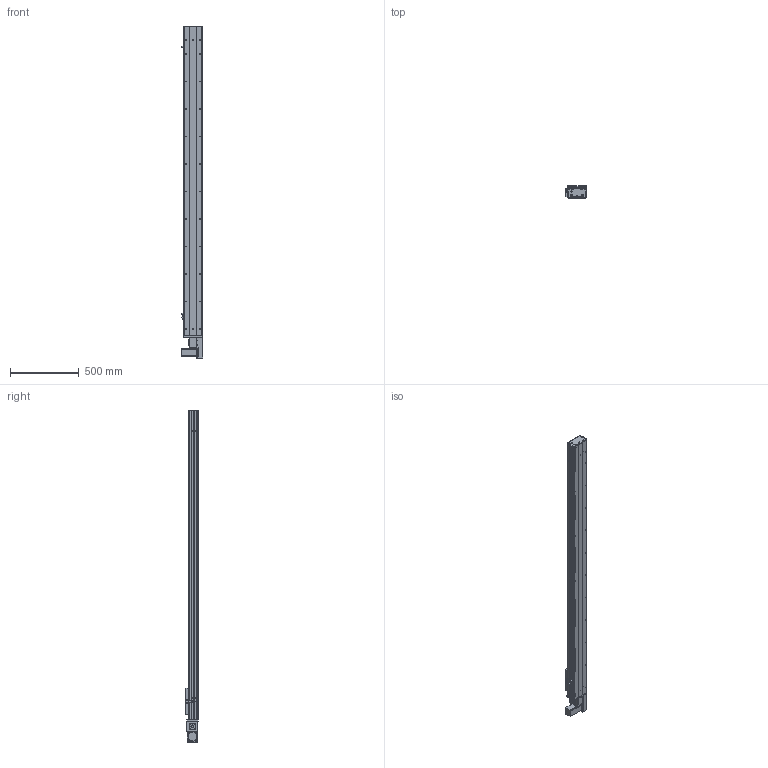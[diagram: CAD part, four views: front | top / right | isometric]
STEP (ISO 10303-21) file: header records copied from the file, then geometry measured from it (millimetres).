
FILE_DESCRIPTION (( 'STEP AP203' ), '1' );
FILE_NAME ('Y135CB-D90-S1950-BL-P400W.STEP', '2020-02-18T01:29:42', ( '微软用户' ), ( '微软中国' ), 'SwSTEP 2.0', 'SolidWorks 2017', '' );
FILE_SCHEMA (( 'CONFIG_CONTROL_DESIGN' ));
Length unit declared in the file: millimetre
Products named in the file (18): 5CB --掛极耜裔啣-; 35CB---喘謫眊楊擘啣; Y135CB-D90-S1950-BL-P400W; C-詩湍揤踡え-陔; Y10B--々湍喘謫眊--666; 135CB--詩湍-CE; Y10B-耜蚾蟀諉啣----; Y100-135俋离換覜ん--; Y俋欶BR----; 0B-埴倛裔啣; 0B-源倛裔啣; Y135C-陔俋离換覜結え-; 0B-萇儂楊擘啣; Y135CB-耜裔; 5C--俋欶; san松下电机400不带刹车----; 135CB---遴掛极.-; C-雄赽釱--
Assembly tree (21 placements, depth 2):
  Y135CB-D90-S1950-BL-P400W
    Y135CB-耜裔
    135CB---遴掛极.-
    35CB---喘謫眊楊擘啣
    Y10B--々湍喘謫眊--666
    Y10B-耜蚾蟀諉啣----
    Y俋欶BR----
    0B-埴倛裔啣
    0B-源倛裔啣
    0B-萇儂楊擘啣
    san松下电机400不带刹车----
    5CB --掛极耜裔啣-  x2
    C-詩湍揤踡え-陔  x2
    135CB--詩湍-CE
    Y100-135俋离換覜ん--  x3
    Y135C-陔俋离換覜結え-
    5C--俋欶
    C-雄赽釱--
Bounding box: 157.5 x 91 x 2414.5 mm (x, y, z)
Volume: 6854311.1 mm3; surface area: 2707747.5 mm2
Topology: 21 solids, 21 shells, 965 faces, 2617 edges, 1734 vertices
Faces by surface type: cylinder 491, plane 458, cone 16
Entity records: 30351 total; most frequent: DIRECTION 5041, CARTESIAN_POINT 5032, ORIENTED_EDGE 4710, EDGE_CURVE 2355, AXIS2_PLACEMENT_3D 1843, VERTEX_POINT 1562, LINE 1355, VECTOR 1355
